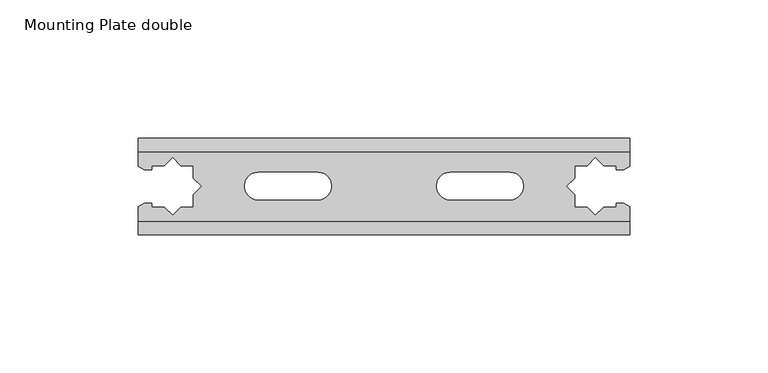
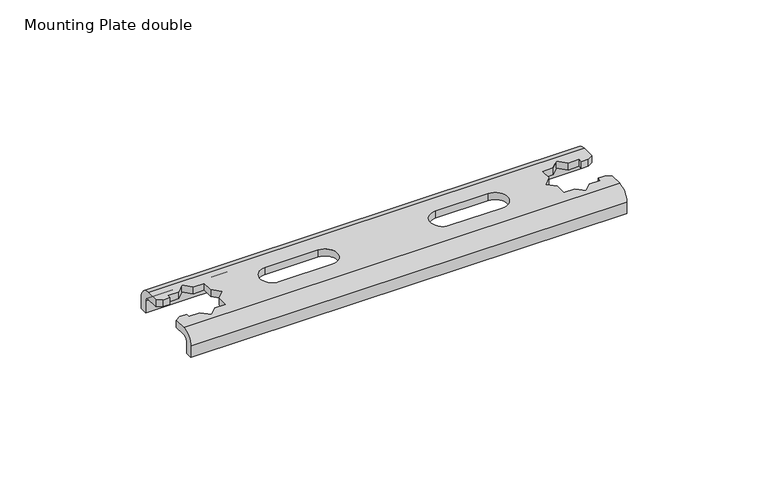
"""IFC4 building model written with IfcOpenShell, lengths in millimetres: valve geometry, Mounting Plate double : Superpipe Mounting Plate -153 mm double."""

from ifc_helpers import new_model, si_unit, frame, origin, place, context, project, spatial, polyline, circle_curve, source, transform, mapped, element, save
from ifc_brep_helpers import plane_surface, cylinder_surface, revolved_surface, advanced_brep


def mounting_plate_double_c830053c(model_context):
    return source(origin(), model_context, "Body", "AdvancedBrep", [
        advanced_brep(
        [(178.0, 32.0, 0.0), (178.0, 35.0, 0.0), (178.0, 35.0, 5.0), (178.0, 30.0, 10.0), (178.0, 24.8603514, 10.0), (178.0, 24.8603514, 7.0), (178.0, 30.0, 7.0), (178.0, 32.0, 5.0), (178.0, 5.0, 10.0), (178.0, 0.0, 5.0), (178.0, 0.0, 0.0), (178.0, 3.0, 0.0), (178.0, 3.0, 5.0), (178.0, 5.0, 7.0), (178.0, 10.1396486, 7.0), (178.0, 10.1396486, 10.0), (0.0, 32.0, 0.0), (0.0, 32.0, 5.0), (0.0, 30.0, 7.0), (0.0, 24.8603514, 7.0), (0.0, 24.8603514, 10.0), (0.0, 30.0, 10.0), (0.0, 35.0, 5.0), (0.0, 35.0, 0.0), (0.0, 5.0, 7.0), (0.0, 3.0, 5.0), (0.0, 3.0, 0.0), (0.0, 0.0, 0.0), (0.0, 0.0, 5.0), (0.0, 5.0, 10.0), (0.0, 10.1396486, 10.0), (0.0, 10.1396486, 7.0), (2.2011526, 23.5, 10.0), (5.0, 23.5, 10.0), (5.0, 25.0, 10.0), (9.5, 25.0, 10.0), (12.5, 28.0, 10.0), (15.5, 25.0, 10.0), (20.0, 25.0, 10.0), (20.0, 20.5, 10.0), (23.0, 17.5, 10.0), (20.0, 14.5, 10.0), (20.0, 10.0, 10.0), (15.5, 10.0, 10.0), (12.5, 7.0, 10.0), (9.5, 10.0, 10.0), (5.0, 10.0, 10.0), (5.0, 11.5, 10.0), (2.2011526, 11.5, 10.0), (175.7988474, 11.5, 10.0), (173.0, 11.5, 10.0), (173.0, 10.0, 10.0), (168.5, 10.0, 10.0), (165.5, 7.0, 10.0), (162.5, 10.0, 10.0), (158.0, 10.0, 10.0), (158.0, 14.5, 10.0), (155.0, 17.5, 10.0), (158.0, 20.5, 10.0), (158.0, 25.0, 10.0), (162.5, 25.0, 10.0), (165.5, 28.0, 10.0), (168.5, 25.0, 10.0), (173.0, 25.0, 10.0), (173.0, 23.5, 10.0), (175.7988474, 23.5, 10.0), (43.5, 22.638824, 10.0), (65.0, 22.638824, 10.0), (65.0, 12.638824, 10.0), (43.5, 12.638824, 10.0), (113.0, 12.638824, 10.0), (113.0, 22.638824, 10.0), (134.5, 22.638824, 10.0), (134.5, 12.638824, 10.0), (2.2011526, 11.5, 7.0), (5.0, 11.5, 7.0), (5.0, 10.0, 7.0), (9.5, 10.0, 7.0), (12.5, 7.0, 7.0), (15.5, 10.0, 7.0), (20.0, 10.0, 7.0), (20.0, 14.5, 7.0), (23.0, 17.5, 7.0), (20.0, 20.5, 7.0), (20.0, 25.0, 7.0), (15.5, 25.0, 7.0), (12.5, 28.0, 7.0), (9.5, 25.0, 7.0), (5.0, 25.0, 7.0), (5.0, 23.5, 7.0), (2.2011526, 23.5, 7.0), (175.7988474, 23.5, 7.0), (173.0, 23.5, 7.0), (173.0, 25.0, 7.0), (168.5, 25.0, 7.0), (165.5, 28.0, 7.0), (162.5, 25.0, 7.0), (158.0, 25.0, 7.0), (158.0, 20.5, 7.0), (155.0, 17.5, 7.0), (158.0, 14.5, 7.0), (158.0, 10.0, 7.0), (162.5, 10.0, 7.0), (165.5, 7.0, 7.0), (168.5, 10.0, 7.0), (173.0, 10.0, 7.0), (173.0, 11.5, 7.0), (175.7988474, 11.5, 7.0), (65.0, 22.638824, 7.0), (43.5, 22.638824, 7.0), (43.5, 12.638824, 7.0), (65.0, 12.638824, 7.0), (113.0, 22.638824, 7.0), (113.0, 12.638824, 7.0), (134.5, 12.638824, 7.0), (134.5, 22.638824, 7.0)],
        [
            (0, 1),
            (1, 2),
            (2, 3, circle_curve(frame((178.0, 30.0, 5.0), z_axis=(1.0, 0.0, 0.0), x_axis=(0.0, 1.0, 0.0)), 5.0)),
            (3, 4),
            (4, 5),
            (5, 6),
            (6, 7, circle_curve(frame((178.0, 30.0, 5.0), z_axis=(-1.0, 0.0, 0.0), x_axis=(0.0, 1.0, 0.0)), 2.0)),
            (7, 0),
            (8, 9, circle_curve(frame((178.0, 5.0, 5.0), z_axis=(1.0, 0.0, 0.0), x_axis=(0.0, 1.0, 0.0)), 5.0)),
            (9, 10),
            (10, 11),
            (11, 12),
            (12, 13, circle_curve(frame((178.0, 5.0, 5.0), z_axis=(-1.0, 0.0, 0.0), x_axis=(0.0, 1.0, 0.0)), 2.0)),
            (13, 14),
            (14, 15),
            (15, 8),
            (16, 17),
            (17, 18, circle_curve(frame((0.0, 30.0, 5.0), z_axis=(1.0, 0.0, 0.0), x_axis=(0.0, 1.0, 0.0)), 2.0)),
            (18, 19),
            (19, 20),
            (20, 21),
            (21, 22, circle_curve(frame((0.0, 30.0, 5.0), z_axis=(-1.0, 0.0, 0.0), x_axis=(0.0, 1.0, 0.0)), 5.0)),
            (22, 23),
            (23, 16),
            (24, 25, circle_curve(frame((0.0, 5.0, 5.0), z_axis=(1.0, 0.0, 0.0), x_axis=(0.0, 1.0, 0.0)), 2.0)),
            (25, 26),
            (26, 27),
            (27, 28),
            (28, 29, circle_curve(frame((0.0, 5.0, 5.0), z_axis=(-1.0, 0.0, 0.0), x_axis=(0.0, 1.0, 0.0)), 5.0)),
            (29, 30),
            (30, 31),
            (31, 24),
            (0, 16),
            (23, 1),
            (22, 2),
            (21, 3),
            (20, 32),
            (32, 33),
            (33, 34),
            (34, 35),
            (35, 36),
            (36, 37),
            (37, 38),
            (38, 39),
            (39, 40),
            (40, 41),
            (41, 42),
            (42, 43),
            (43, 44),
            (44, 45),
            (45, 46),
            (46, 47),
            (47, 48),
            (48, 30),
            (29, 8),
            (15, 49),
            (49, 50),
            (50, 51),
            (51, 52),
            (52, 53),
            (53, 54),
            (54, 55),
            (55, 56),
            (56, 57),
            (57, 58),
            (58, 59),
            (59, 60),
            (60, 61),
            (61, 62),
            (62, 63),
            (63, 64),
            (64, 65),
            (65, 4),
            (66, 67),
            (67, 68, circle_curve(frame((65.0, 17.638824, 10.0), z_axis=(0.0, 0.0, -1.0), x_axis=(1.0, 0.0, 0.0)), 5.0)),
            (68, 69),
            (69, 66, circle_curve(frame((43.5, 17.638824, 10.0), z_axis=(0.0, 0.0, -1.0), x_axis=(1.0, 0.0, 0.0)), 5.0)),
            (70, 71, circle_curve(frame((113.0, 17.638824, 10.0), z_axis=(0.0, 0.0, -1.0), x_axis=(1.0, 0.0, 0.0)), 5.0)),
            (71, 72),
            (72, 73, circle_curve(frame((134.5, 17.638824, 10.0), z_axis=(0.0, 0.0, -1.0), x_axis=(1.0, 0.0, 0.0)), 5.0)),
            (73, 70),
            (28, 9),
            (27, 10),
            (26, 11),
            (25, 12),
            (24, 13),
            (31, 74),
            (74, 75),
            (75, 76),
            (76, 77),
            (77, 78),
            (78, 79),
            (79, 80),
            (80, 81),
            (81, 82),
            (82, 83),
            (83, 84),
            (84, 85),
            (85, 86),
            (86, 87),
            (87, 88),
            (88, 89),
            (89, 90),
            (90, 19),
            (18, 6),
            (5, 91),
            (91, 92),
            (92, 93),
            (93, 94),
            (94, 95),
            (95, 96),
            (96, 97),
            (97, 98),
            (98, 99),
            (99, 100),
            (100, 101),
            (101, 102),
            (102, 103),
            (103, 104),
            (104, 105),
            (105, 106),
            (106, 107),
            (107, 14),
            (108, 109),
            (109, 110, circle_curve(frame((43.5, 17.638824, 7.0), z_axis=(0.0, 0.0, 1.0), x_axis=(1.0, 0.0, 0.0)), 5.0)),
            (110, 111),
            (111, 108, circle_curve(frame((65.0, 17.638824, 7.0), z_axis=(0.0, 0.0, 1.0), x_axis=(1.0, 0.0, 0.0)), 5.0)),
            (112, 113, circle_curve(frame((113.0, 17.638824, 7.0), z_axis=(0.0, 0.0, 1.0), x_axis=(1.0, 0.0, 0.0)), 5.0)),
            (113, 114),
            (114, 115, circle_curve(frame((134.5, 17.638824, 7.0), z_axis=(0.0, 0.0, 1.0), x_axis=(1.0, 0.0, 0.0)), 5.0)),
            (115, 112),
            (7, 17),
            (66, 109),
            (108, 67),
            (69, 110),
            (68, 111),
            (38, 84),
            (83, 39),
            (37, 85),
            (36, 86),
            (32, 90),
            (89, 33),
            (48, 74),
            (47, 75),
            (82, 40),
            (35, 87),
            (34, 88),
            (46, 76),
            (45, 77),
            (44, 78),
            (43, 79),
            (42, 80),
            (41, 81),
            (70, 113),
            (112, 71),
            (73, 114),
            (72, 115),
            (57, 99),
            (98, 58),
            (56, 100),
            (55, 101),
            (54, 102),
            (53, 103),
            (52, 104),
            (51, 105),
            (50, 106),
            (49, 107),
            (65, 91),
            (64, 92),
            (63, 93),
            (62, 94),
            (61, 95),
            (60, 96),
            (59, 97),
        ],
        [
            plane_surface(frame((178.0, 35.0, 0.0), z_axis=(1.0, 0.0, 0.0), x_axis=(0.0, 1.0, 0.0))),
            plane_surface(frame((0.0, 35.0, 0.0), z_axis=(-1.0, 0.0, 0.0), x_axis=(0.0, -1.0, 0.0))),
            plane_surface(frame((178.0, 32.0, 0.0), z_axis=(0.0, 0.0, -1.0), x_axis=(-1.0, 0.0, 0.0))),
            plane_surface(frame((178.0, 35.0, 0.0), z_axis=(0.0, 1.0, 0.0), x_axis=(-1.0, 0.0, 0.0))),
            cylinder_surface(frame((0.0, 30.0, 5.0), z_axis=(1.0, 0.0, 0.0), x_axis=(0.0, 1.0, 0.0)), 5.0),
            plane_surface(frame((178.0, 30.0, 10.0), z_axis=(0.0, 0.0, 1.0), x_axis=(-1.0, 0.0, 0.0))),
            cylinder_surface(frame((0.0, 5.0, 5.0), z_axis=(1.0, 0.0, 0.0), x_axis=(0.0, 1.0, 0.0)), 5.0),
            plane_surface(frame((178.0, 0.0, 5.0), z_axis=(0.0, -1.0, 0.0), x_axis=(-1.0, 0.0, 0.0))),
            plane_surface(frame((178.0, 0.0, 0.0), z_axis=(0.0, 0.0, -1.0), x_axis=(-1.0, 0.0, 0.0))),
            plane_surface(frame((178.0, 3.0, 0.0), z_axis=(0.0, 1.0, 0.0), x_axis=(-1.0, 0.0, 0.0))),
            revolved_surface(polyline([(0.0, 7.0, 5.0), (178.0, 7.0, 5.0)]), (0.0, 5.0, 5.0), (-1.0, 0.0, 0.0)),
            plane_surface(frame((178.0, 5.0, 7.0), z_axis=(0.0, 0.0, -1.0), x_axis=(-1.0, 0.0, 0.0))),
            plane_surface(frame((178.0, 32.0, 5.0), z_axis=(0.0, -1.0, 0.0), x_axis=(-1.0, 0.0, 0.0))),
            plane_surface(frame((65.0, 22.638824, 10.0), z_axis=(0.0, -1.0, 0.0), x_axis=(0.0, 0.0, -1.0))),
            revolved_surface(polyline([(48.5, 17.638824, 10.0), (48.5, 17.638824, 7.0)]), (43.5, 17.638824, 7.0), (0.0, 0.0, 1.0)),
            plane_surface(frame((43.5, 12.638824, 10.0), z_axis=(0.0, 1.0, 0.0), x_axis=(0.0, 0.0, -1.0))),
            revolved_surface(polyline([(70.0, 17.638824, 10.0), (70.0, 17.638824, 7.0)]), (65.0, 17.638824, 7.0), (0.0, 0.0, 1.0)),
            plane_surface(frame((20.0, 20.5, 10.0), z_axis=(-1.0, 0.0, 0.0), x_axis=(0.0, 0.0, -1.0))),
            plane_surface(frame((20.0, 25.0, 10.0), z_axis=(0.0, -1.0, 0.0), x_axis=(0.0, 0.0, -1.0))),
            plane_surface(frame((15.5, 25.0, 10.0), z_axis=(-0.7071067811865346, -0.7071067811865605, 0.0), x_axis=(0.0, 0.0, -1.0))),
            plane_surface(frame((5.0, 23.5, 10.0), z_axis=(0.0, -1.0, 0.0), x_axis=(0.0, 0.0, -1.0))),
            plane_surface(frame((2.2011526, 23.5, 10.0), z_axis=(-0.525721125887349, -0.8506569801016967, 0.0), x_axis=(0.0, 0.0, -1.0))),
            plane_surface(frame((0.0, 10.1396486, 10.0), z_axis=(-0.525721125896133, 0.850656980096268, 0.0), x_axis=(0.0, 0.0, -1.0))),
            plane_surface(frame((2.2011526, 11.5, 10.0), z_axis=(0.0, 1.0, 0.0), x_axis=(0.0, 0.0, -1.0))),
            plane_surface(frame((23.0, 17.5, 10.0), z_axis=(-0.7071067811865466, -0.7071067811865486, 0.0), x_axis=(0.0, 0.0, -1.0))),
            plane_surface(frame((12.5, 28.0, 10.0), z_axis=(0.7071067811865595, -0.7071067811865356, 0.0), x_axis=(0.0, 0.0, -1.0))),
            plane_surface(frame((9.5, 25.0, 10.0), z_axis=(0.0, -1.0, 0.0), x_axis=(0.0, 0.0, -1.0))),
            plane_surface(frame((5.0, 25.0, 10.0), z_axis=(1.0, 0.0, 0.0), x_axis=(0.0, 0.0, -1.0))),
            plane_surface(frame((5.0, 11.5, 10.0), z_axis=(1.0, 0.0, 0.0), x_axis=(0.0, 0.0, -1.0))),
            plane_surface(frame((5.0, 10.0, 10.0), z_axis=(0.0, 1.0, 0.0), x_axis=(0.0, 0.0, -1.0))),
            plane_surface(frame((9.5, 10.0, 10.0), z_axis=(0.7071067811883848, 0.7071067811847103, 0.0), x_axis=(0.0, 0.0, -1.0))),
            plane_surface(frame((12.5, 7.0, 10.0), z_axis=(-0.707106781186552, 0.707106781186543, 0.0), x_axis=(0.0, 0.0, -1.0))),
            plane_surface(frame((15.5, 10.0, 10.0), z_axis=(0.0, 1.0, 0.0), x_axis=(0.0, 0.0, -1.0))),
            plane_surface(frame((20.0, 10.0, 10.0), z_axis=(-1.0, 0.0, 0.0), x_axis=(0.0, 0.0, -1.0))),
            plane_surface(frame((20.0, 14.5, 10.0), z_axis=(-0.7071067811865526, 0.7071067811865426, 0.0), x_axis=(0.0, 0.0, -1.0))),
            revolved_surface(polyline([(118.0, 17.638824, 10.0), (118.0, 17.638824, 7.0)]), (113.0, 17.638824, 2.5), (0.0, 0.0, 1.0)),
            plane_surface(frame((113.0, 12.638824, 10.0), z_axis=(0.0, 1.0, 0.0), x_axis=(0.0, 0.0, -1.0))),
            revolved_surface(polyline([(139.5, 17.638824, 10.0), (139.5, 17.638824, 7.0)]), (134.5, 17.638824, 2.5), (0.0, 0.0, 1.0)),
            plane_surface(frame((134.5, 22.638824, 10.0), z_axis=(0.0, -1.0, 0.0), x_axis=(0.0, 0.0, -1.0))),
            plane_surface(frame((158.0, 20.5, 10.0), z_axis=(0.7071067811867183, -0.7071067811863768, 0.0), x_axis=(0.0, 0.0, -1.0))),
            plane_surface(frame((155.0, 17.5, 10.0), z_axis=(0.7071067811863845, 0.7071067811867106, 0.0), x_axis=(0.0, 0.0, -1.0))),
            plane_surface(frame((158.0, 14.5, 10.0), z_axis=(1.0, 0.0, 0.0), x_axis=(0.0, 0.0, -1.0))),
            plane_surface(frame((158.0, 10.0, 10.0), z_axis=(0.0, 1.0, 0.0), x_axis=(0.0, 0.0, -1.0))),
            plane_surface(frame((162.5, 10.0, 10.0), z_axis=(0.7071067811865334, 0.7071067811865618, 0.0), x_axis=(0.0, 0.0, -1.0))),
            plane_surface(frame((165.5, 7.0, 10.0), z_axis=(-0.7071067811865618, 0.7071067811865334, 0.0), x_axis=(0.0, 0.0, -1.0))),
            plane_surface(frame((168.5, 10.0, 10.0), z_axis=(0.0, 1.0, 0.0), x_axis=(0.0, 0.0, -1.0))),
            plane_surface(frame((173.0, 10.0, 10.0), z_axis=(-1.0, 0.0, 0.0), x_axis=(0.0, 0.0, -1.0))),
            plane_surface(frame((173.0, 11.5, 10.0), z_axis=(0.0, 1.0, 0.0), x_axis=(0.0, 0.0, -1.0))),
            plane_surface(frame((175.7988474, 11.5, 10.0), z_axis=(0.5257211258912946, 0.850656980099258, 0.0), x_axis=(0.0, 0.0, -1.0))),
            plane_surface(frame((178.0, 24.8603514, 10.0), z_axis=(0.5257211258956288, -0.8506569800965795, 0.0), x_axis=(0.0, 0.0, -1.0))),
            plane_surface(frame((175.7988474, 23.5, 10.0), z_axis=(0.0, -1.0, 0.0), x_axis=(0.0, 0.0, -1.0))),
            plane_surface(frame((173.0, 23.5, 10.0), z_axis=(-1.0, 0.0, 0.0), x_axis=(0.0, 0.0, -1.0))),
            plane_surface(frame((173.0, 25.0, 10.0), z_axis=(0.0, -1.0, 0.0), x_axis=(0.0, 0.0, -1.0))),
            plane_surface(frame((168.5, 25.0, 10.0), z_axis=(-0.7071067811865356, -0.7071067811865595, 0.0), x_axis=(0.0, 0.0, -1.0))),
            plane_surface(frame((165.5, 28.0, 10.0), z_axis=(0.7071067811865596, -0.7071067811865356, 0.0), x_axis=(0.0, 0.0, -1.0))),
            plane_surface(frame((162.5, 25.0, 10.0), z_axis=(0.0, -1.0, 0.0), x_axis=(0.0, 0.0, -1.0))),
            plane_surface(frame((158.0, 25.0, 10.0), z_axis=(1.0, 0.0, 0.0), x_axis=(0.0, 0.0, -1.0))),
            revolved_surface(polyline([(0.0, 32.0, 5.0), (178.0, 32.0, 5.0)]), (0.0, 30.0, 5.0), (-1.0, 0.0, 0.0)),
        ],
        [
            (0, [[1, 2, 3, 4, 5, 6, 7, 8]]),
            (0, [[9, 10, 11, 12, 13, 14, 15, 16]]),
            (1, [[17, 18, 19, 20, 21, 22, 23, 24]]),
            (1, [[25, 26, 27, 28, 29, 30, 31, 32]]),
            (2, [[-1, 33, -24, 34]]),
            (3, [[-2, -34, -23, 35]]),
            (4, [[-3, -35, -22, 36]]),
            (5, [[-36, -21, 37, 38, 39, 40, 41, 42, 43, 44, 45, 46, 47, 48, 49, 50, 51, 52, 53, 54, -30, 55, -16, 56, 57, 58, 59, 60, 61, 62, 63, 64, 65, 66, 67, 68, 69, 70, 71, 72, 73, -4], [74, 75, 76, 77], [78, 79, 80, 81]]),
            (6, [[-9, -55, -29, 82]]),
            (7, [[-10, -82, -28, 83]]),
            (8, [[-11, -83, -27, 84]]),
            (9, [[-12, -84, -26, 85]]),
            (10, [[-13, -85, -25, 86]]),
            (11, [[-86, -32, 87, 88, 89, 90, 91, 92, 93, 94, 95, 96, 97, 98, 99, 100, 101, 102, 103, 104, -19, 105, -6, 106, 107, 108, 109, 110, 111, 112, 113, 114, 115, 116, 117, 118, 119, 120, 121, 122, 123, -14], [124, 125, 126, 127], [128, 129, 130, 131]]),
            (12, [[-8, 132, -17, -33]]),
            (13, [[133, -124, 134, -74]]),
            (14, [[-133, -77, 135, -125]]),
            (15, [[-135, -76, 136, -126]]),
            (16, [[-134, -127, -136, -75]]),
            (17, [[137, -97, 138, -44]]),
            (18, [[-137, -43, 139, -98]]),
            (19, [[-139, -42, 140, -99]]),
            (20, [[141, -103, 142, -38]]),
            (21, [[-141, -37, -20, -104]]),
            (22, [[143, -87, -31, -54]]),
            (23, [[-143, -53, 144, -88]]),
            (24, [[-138, -96, 145, -45]]),
            (25, [[-140, -41, 146, -100]]),
            (26, [[-146, -40, 147, -101]]),
            (27, [[-142, -102, -147, -39]]),
            (28, [[-144, -52, 148, -89]]),
            (29, [[-148, -51, 149, -90]]),
            (30, [[-149, -50, 150, -91]]),
            (31, [[-150, -49, 151, -92]]),
            (32, [[-151, -48, 152, -93]]),
            (33, [[-152, -47, 153, -94]]),
            (34, [[-145, -95, -153, -46]]),
            (35, [[154, -128, 155, -78]]),
            (36, [[-154, -81, 156, -129]]),
            (37, [[-156, -80, 157, -130]]),
            (38, [[-155, -131, -157, -79]]),
            (39, [[158, -114, 159, -65]]),
            (40, [[-158, -64, 160, -115]]),
            (41, [[-160, -63, 161, -116]]),
            (42, [[-161, -62, 162, -117]]),
            (43, [[-162, -61, 163, -118]]),
            (44, [[-163, -60, 164, -119]]),
            (45, [[-164, -59, 165, -120]]),
            (46, [[-165, -58, 166, -121]]),
            (47, [[-166, -57, 167, -122]]),
            (48, [[-167, -56, -15, -123]]),
            (49, [[168, -106, -5, -73]]),
            (50, [[-168, -72, 169, -107]]),
            (51, [[-169, -71, 170, -108]]),
            (52, [[-170, -70, 171, -109]]),
            (53, [[-171, -69, 172, -110]]),
            (54, [[-172, -68, 173, -111]]),
            (55, [[-173, -67, 174, -112]]),
            (56, [[-159, -113, -174, -66]]),
            (57, [[-7, -105, -18, -132]]),
        ],
    ),
    ])


if __name__ == "__main__":
    model = new_model("IFC4")
    model_context = context("Model", 3, world=origin())
    ifc_project = project(units=[si_unit("LENGTHUNIT", "METRE", prefix="MILLI")], contexts=[model_context])
    site = spatial("IfcSite", under=ifc_project)
    building = spatial("IfcBuilding", under=site)
    placement = place(None, origin())
    mounting_plate_double_shape = mounting_plate_double_c830053c(model_context)
    element("IfcValve", 1, ObjectType="Mounting Plate double : Superpipe Mounting Plate -153 mm double", at=placement, inside=building, context=model_context, shape_type="MappedRepresentation", body=[
        mapped(mounting_plate_double_shape, transform((0.0, 0.0, 0.0), x_axis=(1.0, 0.0, 0.0), y_axis=(0.0, 1.0, 0.0), z_axis=(0.0, 0.0, 1.0))),
    ])
    save(model, "model.ifc")
